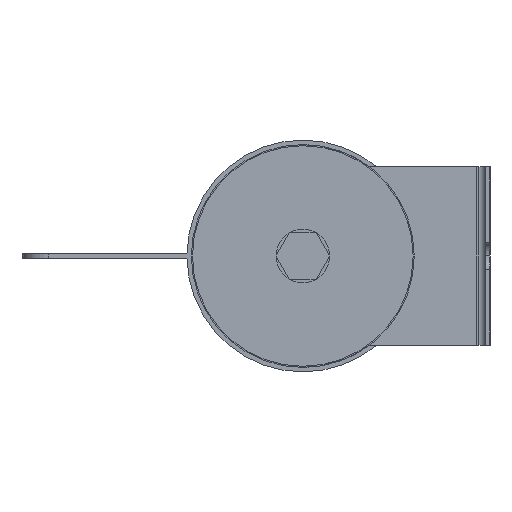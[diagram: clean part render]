
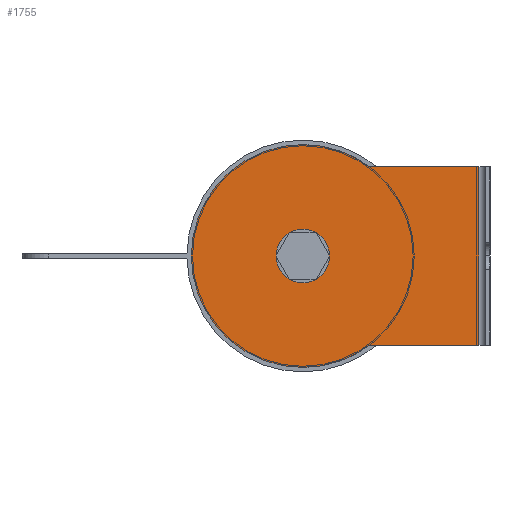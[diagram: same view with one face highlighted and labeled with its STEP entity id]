
A CAD part, left-side view. The second image highlights one B-rep face of the part: STEP entity #1755.
In plain terms, the highlighted planar face has unit normal (-1, 0, 0).
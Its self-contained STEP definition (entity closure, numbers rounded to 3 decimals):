
#39 = DIRECTION ( 'NONE',  ( 0., 0., 1. ) ) ;
#56 = ORIENTED_EDGE ( 'NONE', *, *, #352, .T. ) ;
#191 = CARTESIAN_POINT ( 'NONE',  ( -316.5, 0., -6. ) ) ;
#219 = CARTESIAN_POINT ( 'NONE',  ( -316.5, 0., 6. ) ) ;
#253 = CARTESIAN_POINT ( 'NONE',  ( -316.5, 0., 25. ) ) ;
#287 = DIRECTION ( 'NONE',  ( 0., 1., 0. ) ) ;
#302 = EDGE_CURVE ( 'NONE', #1070, #750, #1311, .T. ) ;
#352 = EDGE_CURVE ( 'NONE', #2423, #2287, #790, .T. ) ;
#420 = CARTESIAN_POINT ( 'NONE',  ( -316.5, -39.5, 20. ) ) ;
#497 = ORIENTED_EDGE ( 'NONE', *, *, #907, .F. ) ;
#532 = VECTOR ( 'NONE', #1014, 1000. ) ;
#543 = VECTOR ( 'NONE', #2868, 1000. ) ;
#713 = DIRECTION ( 'NONE',  ( -1., 0., 0. ) ) ;
#750 = VERTEX_POINT ( 'NONE', #1767 ) ;
#755 = DIRECTION ( 'NONE',  ( -1., 0., 0. ) ) ;
#758 = EDGE_CURVE ( 'NONE', #1911, #1070, #1725, .T. ) ;
#790 = CIRCLE ( 'NONE', #1704, 25. ) ;
#843 = CARTESIAN_POINT ( 'NONE',  ( -316.5, 0., 0. ) ) ;
#887 = DIRECTION ( 'NONE',  ( -1., 0., 0. ) ) ;
#907 = EDGE_CURVE ( 'NONE', #1395, #960, #1160, .T. ) ;
#952 = CIRCLE ( 'NONE', #2035, 25. ) ;
#960 = VERTEX_POINT ( 'NONE', #191 ) ;
#1014 = DIRECTION ( 'NONE',  ( 0., -1., 0. ) ) ;
#1016 = DIRECTION ( 'NONE',  ( 0., 0., 1. ) ) ;
#1026 = EDGE_LOOP ( 'NONE', ( #2822, #497 ) ) ;
#1070 = VERTEX_POINT ( 'NONE', #1376 ) ;
#1086 = CIRCLE ( 'NONE', #1886, 25. ) ;
#1125 = AXIS2_PLACEMENT_3D ( 'NONE', #2163, #1918, #1016 ) ;
#1145 = CARTESIAN_POINT ( 'NONE',  ( -316.5, 0., -25. ) ) ;
#1160 = CIRCLE ( 'NONE', #1218, 6. ) ;
#1214 = EDGE_CURVE ( 'NONE', #2287, #1911, #2242, .T. ) ;
#1218 = AXIS2_PLACEMENT_3D ( 'NONE', #843, #887, #2927 ) ;
#1311 = LINE ( 'NONE', #2030, #1519 ) ;
#1350 = CARTESIAN_POINT ( 'NONE',  ( -316.5, 0., 0. ) ) ;
#1376 = CARTESIAN_POINT ( 'NONE',  ( -316.5, -39.5, 20. ) ) ;
#1386 = DIRECTION ( 'NONE',  ( -1., 0., 0. ) ) ;
#1395 = VERTEX_POINT ( 'NONE', #219 ) ;
#1406 = ORIENTED_EDGE ( 'NONE', *, *, #758, .T. ) ;
#1408 = CIRCLE ( 'NONE', #1125, 6. ) ;
#1457 = EDGE_LOOP ( 'NONE', ( #2374, #1406, #2276, #1897, #2760, #56 ) ) ;
#1519 = VECTOR ( 'NONE', #287, 1000. ) ;
#1539 = CARTESIAN_POINT ( 'NONE',  ( -316.5, -15., -20. ) ) ;
#1598 = FACE_BOUND ( 'NONE', #1026, .T. ) ;
#1648 = CARTESIAN_POINT ( 'NONE',  ( -316.5, 0., 0. ) ) ;
#1704 = AXIS2_PLACEMENT_3D ( 'NONE', #2524, #1386, #1868 ) ;
#1725 = LINE ( 'NONE', #420, #543 ) ;
#1745 = CARTESIAN_POINT ( 'NONE',  ( -316.5, -39.5, -20. ) ) ;
#1755 = ADVANCED_FACE ( 'NONE', ( #1598, #2103 ), #2106, .T. ) ;
#1767 = CARTESIAN_POINT ( 'NONE',  ( -316.5, -15., 20. ) ) ;
#1818 = CARTESIAN_POINT ( 'NONE',  ( -316.5, 0., 0. ) ) ;
#1862 = AXIS2_PLACEMENT_3D ( 'NONE', #1648, #755, #1878 ) ;
#1868 = DIRECTION ( 'NONE',  ( 0., 0., 1. ) ) ;
#1878 = DIRECTION ( 'NONE',  ( 0., 0., 1. ) ) ;
#1886 = AXIS2_PLACEMENT_3D ( 'NONE', #1350, #713, #39 ) ;
#1891 = CARTESIAN_POINT ( 'NONE',  ( -316.5, 0., -20. ) ) ;
#1897 = ORIENTED_EDGE ( 'NONE', *, *, #2411, .T. ) ;
#1911 = VERTEX_POINT ( 'NONE', #1745 ) ;
#1918 = DIRECTION ( 'NONE',  ( -1., 0., 0. ) ) ;
#2030 = CARTESIAN_POINT ( 'NONE',  ( -316.5, 0., 20. ) ) ;
#2035 = AXIS2_PLACEMENT_3D ( 'NONE', #1818, #2073, #2502 ) ;
#2073 = DIRECTION ( 'NONE',  ( -1., 0., 0. ) ) ;
#2103 = FACE_OUTER_BOUND ( 'NONE', #1457, .T. ) ;
#2106 = PLANE ( 'NONE',  #1862 ) ;
#2163 = CARTESIAN_POINT ( 'NONE',  ( -316.5, 0., 0. ) ) ;
#2231 = VERTEX_POINT ( 'NONE', #253 ) ;
#2242 = LINE ( 'NONE', #1891, #532 ) ;
#2276 = ORIENTED_EDGE ( 'NONE', *, *, #302, .T. ) ;
#2287 = VERTEX_POINT ( 'NONE', #1539 ) ;
#2353 = EDGE_CURVE ( 'NONE', #2231, #2423, #1086, .T. ) ;
#2374 = ORIENTED_EDGE ( 'NONE', *, *, #1214, .T. ) ;
#2411 = EDGE_CURVE ( 'NONE', #750, #2231, #952, .T. ) ;
#2423 = VERTEX_POINT ( 'NONE', #1145 ) ;
#2502 = DIRECTION ( 'NONE',  ( 0., 0., 1. ) ) ;
#2524 = CARTESIAN_POINT ( 'NONE',  ( -316.5, 0., 0. ) ) ;
#2616 = EDGE_CURVE ( 'NONE', #960, #1395, #1408, .T. ) ;
#2760 = ORIENTED_EDGE ( 'NONE', *, *, #2353, .T. ) ;
#2822 = ORIENTED_EDGE ( 'NONE', *, *, #2616, .F. ) ;
#2868 = DIRECTION ( 'NONE',  ( 0., 0., 1. ) ) ;
#2927 = DIRECTION ( 'NONE',  ( 0., 0., 1. ) ) ;
